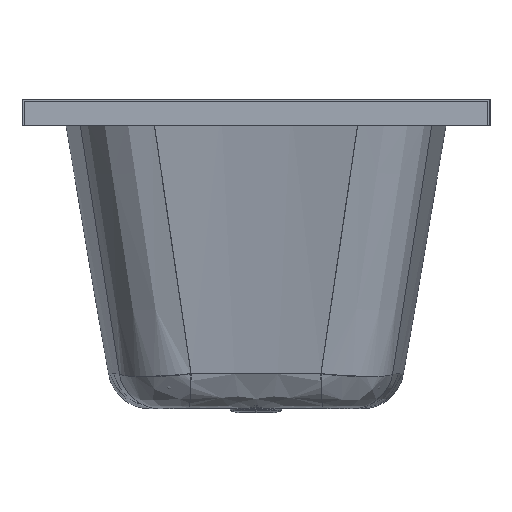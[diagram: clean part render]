
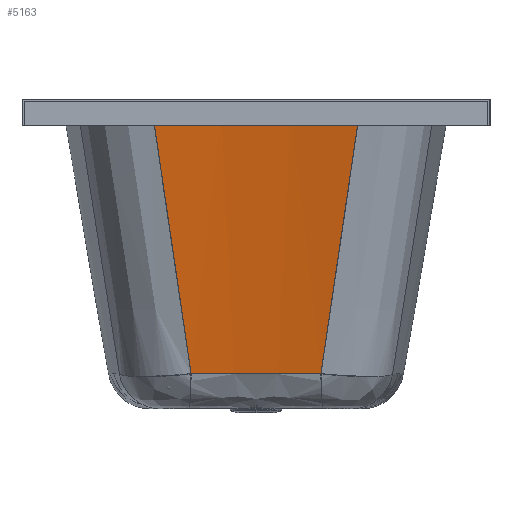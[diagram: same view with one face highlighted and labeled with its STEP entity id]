
A CAD part, left-side view. The second image highlights one B-rep face of the part: STEP entity #5163.
In plain terms, the highlighted free-form (B-spline) face has degree [2, 1] with [3, 2] control points.
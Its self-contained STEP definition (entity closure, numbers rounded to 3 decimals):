
#2059=CARTESIAN_POINT('',(151.407,447.089,-410.94));
#2060=VERTEX_POINT('',#2059);
#2221=CARTESIAN_POINT('',(151.407,252.911,-410.94));
#2222=VERTEX_POINT('',#2221);
#2230=CARTESIAN_POINT('',(-1415.,350.,-410.94));
#2231=DIRECTION('',(0.0,0.0,-1.0));
#2232=DIRECTION('',(0.973,-0.23,0.0));
#2233=AXIS2_PLACEMENT_3D('',#2230,#2231,#2232);
#2234=CIRCLE('',#2233,1569.414);
#2235=EDGE_CURVE('',#2060,#2222,#2234,.T.);
#5094=CARTESIAN_POINT('',(75.798,193.978,-11.264));
#5095=VERTEX_POINT('',#5094);
#5115=CARTESIAN_POINT('',(151.407,252.911,-410.94));
#5116=CARTESIAN_POINT('',(143.148,246.262,-366.52));
#5117=CARTESIAN_POINT('',(126.536,233.03,-277.687));
#5118=CARTESIAN_POINT('',(101.336,213.383,-144.46));
#5119=CARTESIAN_POINT('',(84.343,200.422,-55.66));
#5120=CARTESIAN_POINT('',(75.798,193.978,-11.264));
#5121=B_SPLINE_CURVE_WITH_KNOTS('',3,(#5115,#5116,#5117,#5118,#5119,#5120),.UNSPECIFIED.,.F.,.U.,(4,1,1,4),(0.0,0.333,0.667,1.0),.UNSPECIFIED.);
#5122=EDGE_CURVE('',#2222,#5095,#5121,.T.);
#5127=CARTESIAN_POINT('',(75.797,193.974,-11.264));
#5128=CARTESIAN_POINT('',(92.127,350.,-11.264));
#5129=CARTESIAN_POINT('',(75.797,506.026,-11.264));
#5130=CARTESIAN_POINT('',(145.888,186.638,-410.94));
#5131=CARTESIAN_POINT('',(162.985,350.,-410.94));
#5132=CARTESIAN_POINT('',(145.888,513.362,-410.94));
#5140=(BOUNDED_SURFACE()B_SPLINE_SURFACE(2,1,((#5127,#5130),(#5128,#5131),(#5129,#5132)),.UNSPECIFIED.,.F.,.F.,.U.)B_SPLINE_SURFACE_WITH_KNOTS((3,3),(2,2),(0.0,1.0),(10.908,416.75),.UNSPECIFIED.)GEOMETRIC_REPRESENTATION_ITEM()RATIONAL_B_SPLINE_SURFACE(((1.0,1.0),(0.995,0.995),(1.0,1.0)))REPRESENTATION_ITEM('')SURFACE());
#5141=ORIENTED_EDGE('',*,*,#2235,.T.);
#5142=ORIENTED_EDGE('',*,*,#5122,.T.);
#5143=CARTESIAN_POINT('',(75.798,506.022,-11.264));
#5144=VERTEX_POINT('',#5143);
#5145=CARTESIAN_POINT('',(-1415.,350.,-11.264));
#5146=DIRECTION('',(0.0,0.0,-1.0));
#5147=DIRECTION('',(0.973,-0.23,0.0));
#5148=AXIS2_PLACEMENT_3D('',#5145,#5146,#5147);
#5149=CIRCLE('',#5148,1498.94);
#5150=EDGE_CURVE('',#5144,#5095,#5149,.T.);
#5151=ORIENTED_EDGE('',*,*,#5150,.F.);
#5152=CARTESIAN_POINT('',(151.407,447.089,-410.94));
#5153=CARTESIAN_POINT('',(143.148,453.738,-366.52));
#5154=CARTESIAN_POINT('',(126.536,466.97,-277.687));
#5155=CARTESIAN_POINT('',(101.332,486.617,-144.461));
#5156=CARTESIAN_POINT('',(84.343,499.578,-55.66));
#5157=CARTESIAN_POINT('',(75.798,506.022,-11.264));
#5158=B_SPLINE_CURVE_WITH_KNOTS('',3,(#5152,#5153,#5154,#5155,#5156,#5157),.UNSPECIFIED.,.F.,.U.,(4,1,1,4),(0.0,0.333,0.667,1.0),.UNSPECIFIED.);
#5159=EDGE_CURVE('',#2060,#5144,#5158,.T.);
#5160=ORIENTED_EDGE('',*,*,#5159,.F.);
#5161=EDGE_LOOP('',(#5141,#5142,#5151,#5160));
#5162=FACE_OUTER_BOUND('',#5161,.T.);
#5163=ADVANCED_FACE('',(#5162),#5140,.T.);
